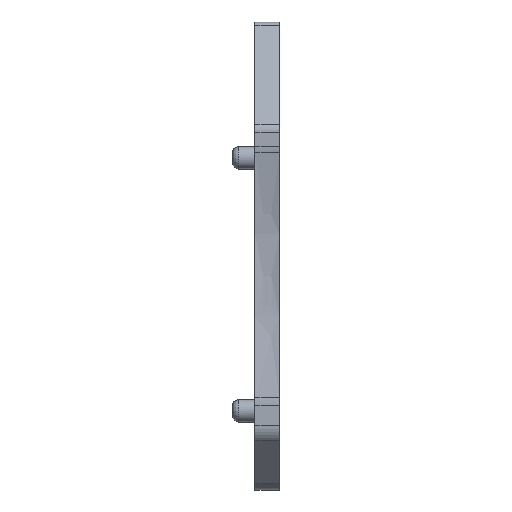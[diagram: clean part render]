
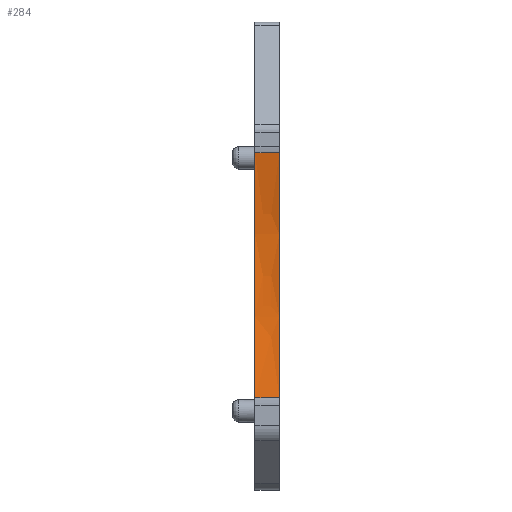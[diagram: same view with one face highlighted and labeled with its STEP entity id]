
A CAD part, left-side view. The second image highlights one B-rep face of the part: STEP entity #284.
In plain terms, the highlighted free-form (B-spline) face has degree [3, 3] with [12, 4] control points.
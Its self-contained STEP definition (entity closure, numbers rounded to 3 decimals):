
#155=CARTESIAN_POINT('',(-31.915,-2.2,8.785));
#156=VERTEX_POINT('',#155);
#157=CARTESIAN_POINT('',(-31.915,0.,8.785));
#158=VERTEX_POINT('',#157);
#159=CARTESIAN_POINT('',(-31.915,-2.2,8.785));
#160=DIRECTION('',(0.,1.,0.));
#161=VECTOR('',#160,2.2);
#162=LINE('',#159,#161);
#163=EDGE_CURVE('',#156,#158,#162,.T.);
#183=CARTESIAN_POINT('',(-31.915,0.,8.785));
#184=CARTESIAN_POINT('',(-31.915,-0.733,8.785));
#185=CARTESIAN_POINT('',(-31.915,-1.467,8.785));
#186=CARTESIAN_POINT('',(-31.915,-2.2,8.785));
#187=CARTESIAN_POINT('',(-31.478,0.,10.579));
#188=CARTESIAN_POINT('',(-31.478,-0.733,10.579));
#189=CARTESIAN_POINT('',(-31.478,-1.467,10.579));
#190=CARTESIAN_POINT('',(-31.478,-2.2,10.579));
#191=CARTESIAN_POINT('',(-31.142,0.,12.392));
#192=CARTESIAN_POINT('',(-31.142,-0.733,12.392));
#193=CARTESIAN_POINT('',(-31.142,-1.467,12.392));
#194=CARTESIAN_POINT('',(-31.142,-2.2,12.392));
#195=CARTESIAN_POINT('',(-30.788,0.,15.14));
#196=CARTESIAN_POINT('',(-30.788,-0.733,15.14));
#197=CARTESIAN_POINT('',(-30.788,-1.467,15.14));
#198=CARTESIAN_POINT('',(-30.788,-2.2,15.14));
#199=CARTESIAN_POINT('',(-30.696,0.,16.062));
#200=CARTESIAN_POINT('',(-30.696,-0.733,16.062));
#201=CARTESIAN_POINT('',(-30.696,-1.467,16.062));
#202=CARTESIAN_POINT('',(-30.696,-2.2,16.062));
#203=CARTESIAN_POINT('',(-30.562,0.,17.905));
#204=CARTESIAN_POINT('',(-30.562,-0.733,17.905));
#205=CARTESIAN_POINT('',(-30.562,-1.467,17.905));
#206=CARTESIAN_POINT('',(-30.562,-2.2,17.905));
#207=CARTESIAN_POINT('',(-30.521,0.,18.827));
#208=CARTESIAN_POINT('',(-30.521,-0.733,18.827));
#209=CARTESIAN_POINT('',(-30.521,-1.467,18.827));
#210=CARTESIAN_POINT('',(-30.521,-2.2,18.827));
#211=CARTESIAN_POINT('',(-30.473,0.,21.593));
#212=CARTESIAN_POINT('',(-30.473,-0.733,21.593));
#213=CARTESIAN_POINT('',(-30.473,-1.467,21.593));
#214=CARTESIAN_POINT('',(-30.473,-2.2,21.593));
#215=CARTESIAN_POINT('',(-30.543,0.,23.439));
#216=CARTESIAN_POINT('',(-30.543,-0.733,23.439));
#217=CARTESIAN_POINT('',(-30.543,-1.467,23.439));
#218=CARTESIAN_POINT('',(-30.543,-2.2,23.439));
#219=CARTESIAN_POINT('',(-30.889,0.,27.123));
#220=CARTESIAN_POINT('',(-30.889,-0.733,27.123));
#221=CARTESIAN_POINT('',(-30.889,-1.467,27.123));
#222=CARTESIAN_POINT('',(-30.889,-2.2,27.123));
#223=CARTESIAN_POINT('',(-31.163,0.,28.947));
#224=CARTESIAN_POINT('',(-31.163,-0.733,28.947));
#225=CARTESIAN_POINT('',(-31.163,-1.467,28.947));
#226=CARTESIAN_POINT('',(-31.163,-2.2,28.947));
#227=CARTESIAN_POINT('',(-31.538,0.,30.752));
#228=CARTESIAN_POINT('',(-31.538,-0.733,30.752));
#229=CARTESIAN_POINT('',(-31.538,-1.467,30.752));
#230=CARTESIAN_POINT('',(-31.538,-2.2,30.752));
#231=B_SPLINE_SURFACE_WITH_KNOTS('',3,3,((#183,#184,#185,#186),(#187,#188,#189,#190),(#191,#192,#193,#194),(#195,#196,#197,#198),(#199,#200,#201,#202),(#203,#204,#205,#206),(#207,#208,#209,#210),(#211,#212,#213,#214),(#215,#216,#217,#218),(#219,#220,#221,#222),(#223,#224,#225,#226),(#227,#228,#229,#230)),.UNSPECIFIED.,.F.,.F.,.U.,(4,2,2,2,2,4),(4,4),(0.,0.25,0.375,0.5,0.75,1.),(0.,1.),.UNSPECIFIED.);
#232=ORIENTED_EDGE('',*,*,#163,.T.);
#233=CARTESIAN_POINT('',(-31.538,0.,30.752));
#234=VERTEX_POINT('',#233);
#235=CARTESIAN_POINT('',(-31.538,0.,30.752));
#236=CARTESIAN_POINT('',(-31.162,-0.,28.938));
#237=CARTESIAN_POINT('',(-30.889,0.,27.114));
#238=CARTESIAN_POINT('',(-30.716,0.,25.281));
#239=CARTESIAN_POINT('',(-30.544,-0.,23.447));
#240=CARTESIAN_POINT('',(-30.473,0.,21.602));
#241=CARTESIAN_POINT('',(-30.505,0.,19.749));
#242=CARTESIAN_POINT('',(-30.521,0.,18.825));
#243=CARTESIAN_POINT('',(-30.562,0.,17.904));
#244=CARTESIAN_POINT('',(-30.629,0.,16.984));
#245=CARTESIAN_POINT('',(-30.696,0.,16.062));
#246=CARTESIAN_POINT('',(-30.788,0.,15.142));
#247=CARTESIAN_POINT('',(-30.906,0.,14.224));
#248=CARTESIAN_POINT('',(-31.142,0.,12.392));
#249=CARTESIAN_POINT('',(-31.478,0.,10.579));
#250=CARTESIAN_POINT('',(-31.915,0.,8.785));
#251=B_SPLINE_CURVE_WITH_KNOTS('',3,(#235,#236,#237,#238,#239,#240,#241,#242,#243,#244,#245,#246,#247,#248,#249,#250),.UNSPECIFIED.,.F.,.U.,(4,3,3,3,3,4),(0.,0.25,0.501,0.625,0.751,1.),.UNSPECIFIED.);
#252=EDGE_CURVE('',#234,#158,#251,.T.);
#253=ORIENTED_EDGE('E192',*,*,#252,.F.);
#254=CARTESIAN_POINT('',(-31.538,-2.2,30.752));
#255=VERTEX_POINT('',#254);
#256=CARTESIAN_POINT('',(-31.538,0.,30.752));
#257=CARTESIAN_POINT('',(-31.538,-0.733,30.752));
#258=CARTESIAN_POINT('',(-31.538,-1.467,30.752));
#259=CARTESIAN_POINT('',(-31.538,-2.2,30.752));
#260=B_SPLINE_CURVE_WITH_KNOTS('',3,(#256,#257,#258,#259),.UNSPECIFIED.,.F.,.U.,(4,4),(0.,1.),.UNSPECIFIED.);
#261=EDGE_CURVE('',#234,#255,#260,.T.);
#262=ORIENTED_EDGE('E282',*,*,#261,.T.);
#263=CARTESIAN_POINT('',(-31.538,-2.2,30.752));
#264=CARTESIAN_POINT('',(-31.163,-2.2,28.944));
#265=CARTESIAN_POINT('',(-30.889,-2.2,27.12));
#266=CARTESIAN_POINT('',(-30.716,-2.2,25.281));
#267=CARTESIAN_POINT('',(-30.544,-2.2,23.441));
#268=CARTESIAN_POINT('',(-30.473,-2.2,21.597));
#269=CARTESIAN_POINT('',(-30.505,-2.2,19.749));
#270=CARTESIAN_POINT('',(-30.521,-2.2,18.825));
#271=CARTESIAN_POINT('',(-30.562,-2.2,17.903));
#272=CARTESIAN_POINT('',(-30.629,-2.2,16.984));
#273=CARTESIAN_POINT('',(-30.696,-2.2,16.061));
#274=CARTESIAN_POINT('',(-30.788,-2.2,15.141));
#275=CARTESIAN_POINT('',(-30.906,-2.2,14.224));
#276=CARTESIAN_POINT('',(-31.141,-2.2,12.398));
#277=CARTESIAN_POINT('',(-31.479,-2.2,10.578));
#278=CARTESIAN_POINT('',(-31.915,-2.2,8.785));
#279=B_SPLINE_CURVE_WITH_KNOTS('',3,(#263,#264,#265,#266,#267,#268,#269,#270,#271,#272,#273,#274,#275,#276,#277,#278),.UNSPECIFIED.,.F.,.U.,(4,3,3,3,3,4),(0.,0.25,0.5,0.625,0.75,1.),.UNSPECIFIED.);
#280=EDGE_CURVE('',#255,#156,#279,.T.);
#281=ORIENTED_EDGE('E118',*,*,#280,.T.);
#282=EDGE_LOOP('',(#232,#253,#262,#281));
#283=FACE_OUTER_BOUND('',#282,.F.);
#284=ADVANCED_FACE('F22',(#283),#231,.F.);
